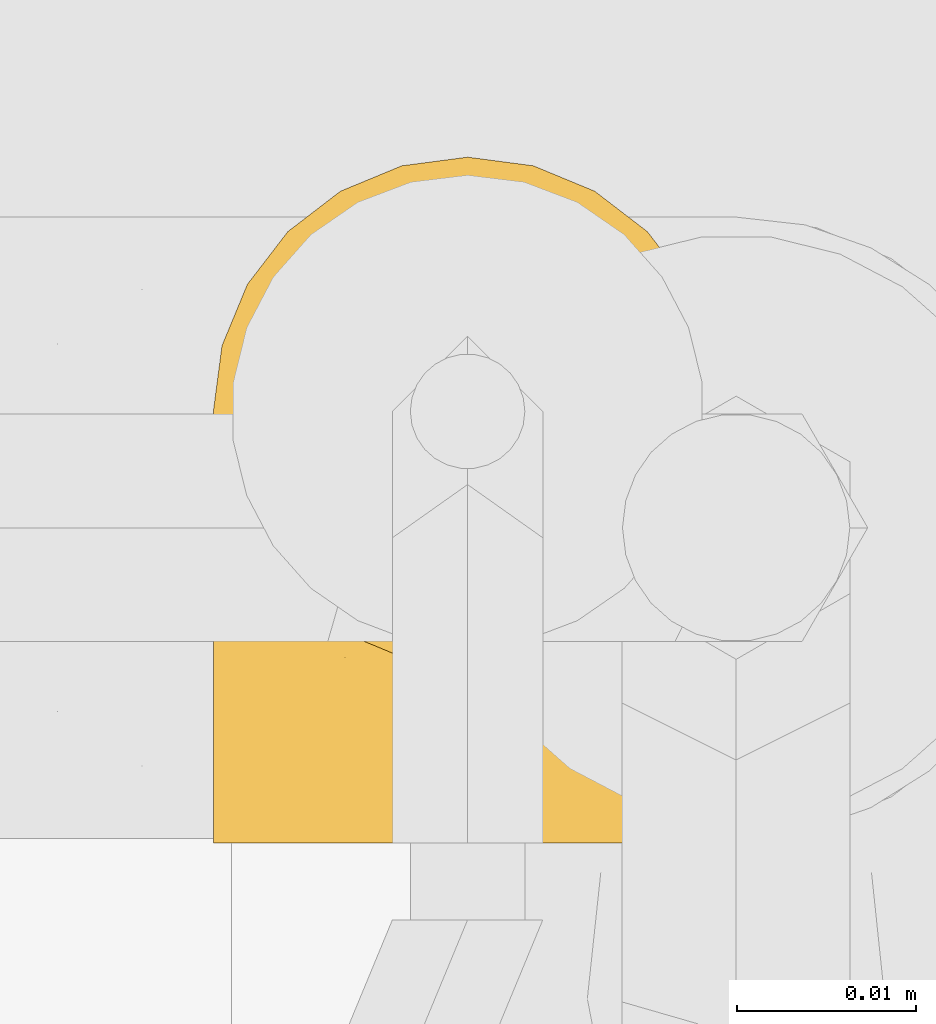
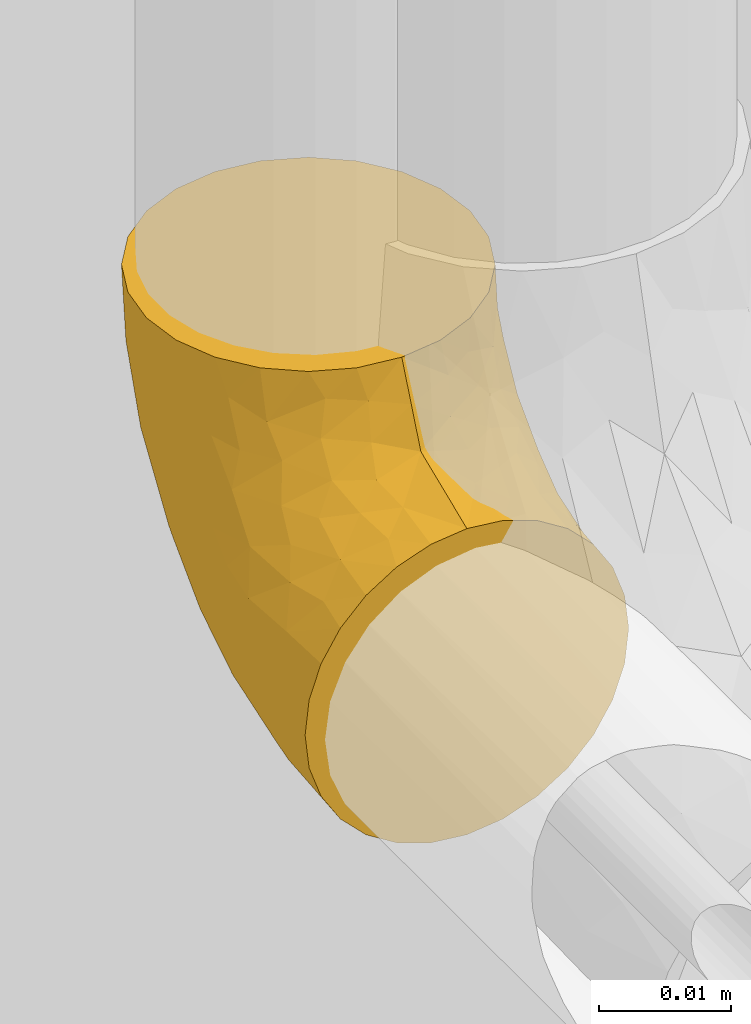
# One storey, part 15 of 32: 1 covering.
"""IFC2X3 building model written with IfcOpenShell, lengths in metres."""

from ifc_helpers import new_model, entity, si_unit, converted_unit, derived_unit, direction, frame, origin, place, context, subcontext, project, spatial, faceted_brep, material, type_object, element, save


model = new_model("IFC2X3")

# Units and contexts
model_context = context("Model", 3, precision=1e-05, world=origin(), true_north=direction((6.123031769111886e-17, 1.0)))
body_context = subcontext(model_context, "Body", "Model", "MODEL_VIEW")
ifc_project = project(units=[si_unit("LENGTHUNIT", "METRE"), si_unit("AREAUNIT", "SQUARE_METRE"), si_unit("VOLUMEUNIT", "CUBIC_METRE"), converted_unit("PLANEANGLEUNIT", "DEGREE", entity("IfcPlaneAngleMeasure", 0.017453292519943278), si_unit("PLANEANGLEUNIT", "RADIAN"), dimensions=[0, 0, 0, 0, 0, 0, 0]), si_unit("MASSUNIT", "GRAM", prefix="KILO"), derived_unit("MASSDENSITYUNIT", [(si_unit("MASSUNIT", "GRAM", prefix="KILO"), 1), (si_unit("LENGTHUNIT", "METRE"), -3)]), derived_unit("IONCONCENTRATIONUNIT", [(si_unit("MASSUNIT", "GRAM", prefix="KILO"), 1), (si_unit("LENGTHUNIT", "METRE"), -3)]), derived_unit("MOMENTOFINERTIAUNIT", [(si_unit("LENGTHUNIT", "METRE"), 4)]), si_unit("TIMEUNIT", "SECOND"), si_unit("FREQUENCYUNIT", "HERTZ"), si_unit("THERMODYNAMICTEMPERATUREUNIT", "DEGREE_CELSIUS"), derived_unit("THERMALTRANSMITTANCEUNIT", [(si_unit("MASSUNIT", "GRAM", prefix="KILO"), 1), (si_unit("THERMODYNAMICTEMPERATUREUNIT", "KELVIN"), -1), (si_unit("TIMEUNIT", "SECOND"), -3)]), derived_unit("THERMALCONDUCTANCEUNIT", [(si_unit("MASSUNIT", "GRAM", prefix="KILO"), 1), (si_unit("THERMODYNAMICTEMPERATUREUNIT", "KELVIN"), -1), (si_unit("TIMEUNIT", "SECOND"), -3), (si_unit("LENGTHUNIT", "METRE"), 1)]), derived_unit("VOLUMETRICFLOWRATEUNIT", [(si_unit("LENGTHUNIT", "METRE", prefix="DECI"), 3), (si_unit("TIMEUNIT", "SECOND"), -1)]), derived_unit("MASSFLOWRATEUNIT", [(si_unit("MASSUNIT", "GRAM", prefix="KILO"), 1), (si_unit("TIMEUNIT", "SECOND"), -1)]), derived_unit("ROTATIONALFREQUENCYUNIT", [(si_unit("TIMEUNIT", "SECOND"), -1)]), si_unit("ELECTRICCURRENTUNIT", "AMPERE"), si_unit("ELECTRICVOLTAGEUNIT", "VOLT"), si_unit("POWERUNIT", "WATT"), si_unit("FORCEUNIT", "NEWTON", prefix="KILO"), si_unit("ILLUMINANCEUNIT", "LUX"), si_unit("LUMINOUSFLUXUNIT", "LUMEN"), si_unit("LUMINOUSINTENSITYUNIT", "CANDELA"), si_unit("ENERGYUNIT", "JOULE"), derived_unit("USERDEFINED", [(si_unit("MASSUNIT", "GRAM", prefix="KILO"), -1), (si_unit("LENGTHUNIT", "METRE"), -2), (si_unit("TIMEUNIT", "SECOND"), 3), (si_unit("LUMINOUSFLUXUNIT", "LUMEN"), 1)]), derived_unit("USERDEFINED", [(si_unit("MASSUNIT", "GRAM", prefix="KILO"), 1), (si_unit("TIMEUNIT", "SECOND"), -3), (si_unit("LENGTHUNIT", "METRE"), 3), (si_unit("ELECTRICCURRENTUNIT", "AMPERE"), -2)]), derived_unit("SOUNDPOWERUNIT", [(si_unit("MASSUNIT", "GRAM", prefix="KILO"), 1), (si_unit("TIMEUNIT", "SECOND"), -3), (si_unit("LENGTHUNIT", "METRE"), 2)]), derived_unit("SOUNDPRESSUREUNIT", [(si_unit("MASSUNIT", "GRAM", prefix="KILO"), 1), (si_unit("LENGTHUNIT", "METRE"), -1), (si_unit("TIMEUNIT", "SECOND"), -2)]), derived_unit("LINEARVELOCITYUNIT", [(si_unit("LENGTHUNIT", "METRE"), 1), (si_unit("TIMEUNIT", "SECOND"), -1)]), si_unit("PRESSUREUNIT", "PASCAL"), derived_unit("USERDEFINED", [(si_unit("MASSUNIT", "GRAM", prefix="KILO"), 1), (si_unit("LENGTHUNIT", "METRE"), -2), (si_unit("TIMEUNIT", "SECOND"), -2)]), derived_unit("LINEARFORCEUNIT", [(si_unit("MASSUNIT", "GRAM", prefix="KILO"), 1), (si_unit("TIMEUNIT", "SECOND"), -2)]), derived_unit("PLANARFORCEUNIT", [(si_unit("MASSUNIT", "GRAM", prefix="KILO"), 1), (si_unit("LENGTHUNIT", "METRE"), -1), (si_unit("TIMEUNIT", "SECOND"), -2)]), derived_unit("SPECIFICHEATCAPACITYUNIT", [(si_unit("THERMODYNAMICTEMPERATUREUNIT", "KELVIN"), -1), (si_unit("LENGTHUNIT", "METRE"), 2), (si_unit("TIMEUNIT", "SECOND"), -2)]), derived_unit("HEATFLUXDENSITYUNIT", [(si_unit("MASSUNIT", "GRAM", prefix="KILO"), 1), (si_unit("TIMEUNIT", "SECOND"), -3)]), derived_unit("HEATINGVALUEUNIT", [(si_unit("LENGTHUNIT", "METRE"), 2), (si_unit("TIMEUNIT", "SECOND"), -2)]), derived_unit("VAPORPERMEABILITYUNIT", [(si_unit("LENGTHUNIT", "METRE"), -1), (si_unit("TIMEUNIT", "SECOND"), 1)]), derived_unit("DYNAMICVISCOSITYUNIT", [(si_unit("MASSUNIT", "GRAM", prefix="KILO"), 1), (si_unit("TIMEUNIT", "SECOND"), -1), (si_unit("LENGTHUNIT", "METRE"), -1)]), derived_unit("THERMALEXPANSIONCOEFFICIENTUNIT", [(si_unit("THERMODYNAMICTEMPERATUREUNIT", "KELVIN"), -1)]), derived_unit("MODULUSOFELASTICITYUNIT", [(si_unit("MASSUNIT", "GRAM", prefix="KILO"), 1), (si_unit("LENGTHUNIT", "METRE"), -1), (si_unit("TIMEUNIT", "SECOND"), -2)]), derived_unit("ISOTHERMALMOISTURECAPACITYUNIT", [(si_unit("MASSUNIT", "GRAM", prefix="KILO"), -1), (si_unit("LENGTHUNIT", "METRE"), 3)]), derived_unit("MOISTUREDIFFUSIVITYUNIT", [(si_unit("TIMEUNIT", "SECOND"), -1), (si_unit("LENGTHUNIT", "METRE"), 2)]), derived_unit("MASSPERLENGTHUNIT", [(si_unit("MASSUNIT", "GRAM", prefix="KILO"), 1), (si_unit("LENGTHUNIT", "METRE"), -1)]), derived_unit("THERMALRESISTANCEUNIT", [(si_unit("MASSUNIT", "GRAM", prefix="KILO"), -1), (si_unit("TIMEUNIT", "SECOND"), 3), (si_unit("THERMODYNAMICTEMPERATUREUNIT", "KELVIN"), 1)]), derived_unit("ACCELERATIONUNIT", [(si_unit("LENGTHUNIT", "METRE"), 1), (si_unit("TIMEUNIT", "SECOND"), -2)]), derived_unit("ANGULARVELOCITYUNIT", [(si_unit("TIMEUNIT", "SECOND"), -1), (si_unit("PLANEANGLEUNIT", "RADIAN"), 1)]), derived_unit("LINEARSTIFFNESSUNIT", [(si_unit("MASSUNIT", "GRAM", prefix="KILO"), 1), (si_unit("TIMEUNIT", "SECOND"), -2)]), derived_unit("WARPINGCONSTANTUNIT", [(si_unit("LENGTHUNIT", "METRE"), 6)]), derived_unit("LINEARMOMENTUNIT", [(si_unit("MASSUNIT", "GRAM", prefix="KILO"), 1), (si_unit("LENGTHUNIT", "METRE"), 1), (si_unit("TIMEUNIT", "SECOND"), -2)]), derived_unit("TORQUEUNIT", [(si_unit("MASSUNIT", "GRAM", prefix="KILO"), 1), (si_unit("LENGTHUNIT", "METRE"), 2), (si_unit("TIMEUNIT", "SECOND"), -2)])], contexts=[model_context])

# Site, building, storey
site_placement = place(None, origin())
site = spatial("IfcSite", under=ifc_project, at=site_placement, Name="Default", CompositionType="ELEMENT")
building_placement = place(site_placement, origin())
building = spatial("IfcBuilding", under=site, at=building_placement, CompositionType="ELEMENT")
storey_placement = place(building_placement, origin())
storey = spatial("IfcBuildingStorey", under=building, at=storey_placement, Name="Niveau 0", CompositionType="ELEMENT", Elevation=-1.949160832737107e-14)

# Covering
ifc_material = material(Name="Matériau du rendu 255-255-255")
covering_type = type_object("IfcCoveringType", Name="Isolation des canalisations:Par défaut", PredefinedType="INSULATION")
covering_placement = place(storey_placement, frame((-13.591096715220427, 2.7663312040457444, -0.4157952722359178)))
element("IfcCovering", 1, at=covering_placement, inside=storey, type_object=covering_type, material=ifc_material, Name="Isolation des canalisations:Par défaut", ObjectType="Isolation des canalisations:Par défaut", PredefinedType="INSULATION", context=body_context, shape_type="Brep", body=[
    faceted_brep([(0.001951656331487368, 0.0015952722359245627, 0.012633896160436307), (0.0030025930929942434, 0.0015952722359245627, 0.009631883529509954), (0.004694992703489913, 0.0015952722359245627, 0.006939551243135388), (0.006943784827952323, 0.0015952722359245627, 0.00469161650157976), (0.009636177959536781, 0.0015952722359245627, 0.0030005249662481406), (0.012637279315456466, 0.0015952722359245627, 0.001950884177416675), (0.015795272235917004, 0.0015952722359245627, 0.0015952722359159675), (0.01895664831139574, 0.0015952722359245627, 0.001951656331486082), (0.021958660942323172, 0.0015952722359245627, 0.0030025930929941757), (0.02465099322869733, 0.0015952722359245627, 0.0046949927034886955), (0.02689892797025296, 0.0015952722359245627, 0.006943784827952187), (0.028590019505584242, 0.0015952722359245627, 0.009636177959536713), (0.029639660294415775, 0.0015952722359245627, 0.012637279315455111), (0.02999527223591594, 0.0015952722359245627, 0.015795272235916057), (0.02963888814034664, 0.0015952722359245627, 0.01895664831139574), (0.028587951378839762, 0.0015952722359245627, 0.02195866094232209), (0.026895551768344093, 0.0015952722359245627, 0.024650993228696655), (0.024646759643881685, 0.0015952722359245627, 0.026898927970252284), (0.021954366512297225, 0.0015952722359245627, 0.028590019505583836), (0.01895326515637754, 0.0015952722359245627, 0.02963966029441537), (0.015795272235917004, 0.0015952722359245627, 0.02999527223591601), (0.012633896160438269, 0.0015952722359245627, 0.029638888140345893), (0.009631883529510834, 0.0015952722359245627, 0.028587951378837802), (0.006939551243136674, 0.0015952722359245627, 0.02689555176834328), (0.004691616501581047, 0.0015952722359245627, 0.02464675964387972), (0.0030005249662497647, 0.0015952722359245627, 0.021954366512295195), (0.0019508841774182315, 0.0015952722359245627, 0.018953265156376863), (0.0015952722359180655, 0.0015952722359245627, 0.015795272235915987), (0.019470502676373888, 0.011979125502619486, 0.03989527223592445), (0.022895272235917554, 0.013397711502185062, 0.03989527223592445), (0.025836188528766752, 0.01565435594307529, 0.03989527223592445), (0.02809283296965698, 0.018595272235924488, 0.03989527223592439), (0.029511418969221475, 0.022020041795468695, 0.03989527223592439), (0.029995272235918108, 0.025695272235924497, 0.03989527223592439), (0.029511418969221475, 0.029370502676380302, 0.03989527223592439), (0.02809283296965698, 0.03279527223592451, 0.03989527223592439), (0.025836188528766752, 0.035736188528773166, 0.03989527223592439), (0.022895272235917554, 0.037992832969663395, 0.03989527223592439), (0.019470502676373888, 0.03941141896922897, 0.03989527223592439), (0.015795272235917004, 0.03989527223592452, 0.03989527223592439), (0.012120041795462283, 0.03941141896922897, 0.03989527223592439), (0.008695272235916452, 0.037992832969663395, 0.03989527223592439), (0.005754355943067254, 0.035736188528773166, 0.03989527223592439), (0.003497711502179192, 0.03279527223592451, 0.03989527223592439), (0.002079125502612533, 0.029370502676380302, 0.03989527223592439), (0.0015952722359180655, 0.025695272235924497, 0.03989527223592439), (0.002079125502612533, 0.022020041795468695, 0.03989527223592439), (0.003497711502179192, 0.018595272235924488, 0.03989527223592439), (0.005754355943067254, 0.01565435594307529, 0.03989527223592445), (0.008695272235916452, 0.013397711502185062, 0.03989527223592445), (0.012120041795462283, 0.011979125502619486, 0.03989527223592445), (0.015795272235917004, 0.011495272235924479, 0.03989527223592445), (0.0018566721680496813, 0.01002356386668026, 0.01444233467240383), (0.01342388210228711, 0.03837015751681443, 0.029932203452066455), (0.015795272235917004, 0.03807857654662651, 0.0331152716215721), (0.015795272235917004, 0.03642131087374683, 0.02693027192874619), (0.0033376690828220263, 0.02960367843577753, 0.026807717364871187), (0.005049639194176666, 0.03380758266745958, 0.031132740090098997), (0.005409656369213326, 0.03076747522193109, 0.022855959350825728), (0.0019283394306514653, 0.016864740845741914, 0.01743704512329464), (0.0015952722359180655, 0.0136452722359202, 0.019024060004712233), (0.011502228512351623, 0.010860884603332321, 0.0034181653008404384), (0.009156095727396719, 0.01756297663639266, 0.006903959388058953), (0.012083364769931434, 0.018031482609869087, 0.005848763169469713), (0.0022458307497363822, 0.022802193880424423, 0.021082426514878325), (0.0015952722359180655, 0.018055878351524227, 0.02343466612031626), (0.00804078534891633, 0.03442139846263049, 0.02512582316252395), (0.010786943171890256, 0.03783267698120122, 0.030693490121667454), (0.011666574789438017, 0.03438477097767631, 0.021317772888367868), (0.0029464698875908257, 0.031158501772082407, 0.03399886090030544), (0.0019132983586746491, 0.027268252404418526, 0.03125340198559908), (0.00878775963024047, 0.029040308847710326, 0.015907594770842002), (0.0015952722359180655, 0.022466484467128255, 0.027845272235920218), (0.0015952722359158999, 0.023181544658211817, 0.030513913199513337), (0.0015952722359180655, 0.023896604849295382, 0.033182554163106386), (0.0015952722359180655, 0.024080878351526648, 0.0338702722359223), (0.0015952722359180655, 0.02479593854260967, 0.03653891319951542), (0.0026820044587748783, 0.01940179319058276, 0.01631519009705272), (0.0035716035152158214, 0.025738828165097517, 0.019934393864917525), (0.003863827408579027, 0.021058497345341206, 0.014748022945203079), (0.004162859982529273, 0.008564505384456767, 0.0084133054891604), (0.006322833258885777, 0.010939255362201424, 0.006498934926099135), (0.008616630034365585, 0.008435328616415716, 0.004192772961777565), (0.015795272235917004, 0.01456027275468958, 0.005069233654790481), (0.002659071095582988, 0.007947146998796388, 0.011094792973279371), (0.0030246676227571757, 0.015081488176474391, 0.012751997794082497), (0.007548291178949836, 0.03658290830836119, 0.03300459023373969), (0.0015952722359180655, 0.004951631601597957, 0.016694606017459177), (0.0015952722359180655, 0.0076202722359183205, 0.01740966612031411), (0.0015952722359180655, 0.008307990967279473, 0.01759393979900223), (0.0015952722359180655, 0.010976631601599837, 0.018308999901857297), (0.00499796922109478, 0.016854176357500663, 0.010271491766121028), (0.007159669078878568, 0.021901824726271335, 0.010932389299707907), (0.015795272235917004, 0.00837527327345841, 0.003411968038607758), (0.005390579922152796, 0.025384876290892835, 0.015936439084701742), (0.015795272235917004, 0.02775465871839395, 0.013735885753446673), (0.015795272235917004, 0.02074527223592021, 0.0067264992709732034), (0.012056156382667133, 0.02452709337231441, 0.009847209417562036), (0.015795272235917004, 0.03476404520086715, 0.02074527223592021), (0.011681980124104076, 0.029976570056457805, 0.015093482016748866), (0.009491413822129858, 0.02334684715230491, 0.010181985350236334), (0.0015952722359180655, 0.02026118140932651, 0.025639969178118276), (0.0015952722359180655, 0.01585057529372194, 0.02122936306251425), (0.002213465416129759, 0.011258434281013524, 0.022435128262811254), (0.0027610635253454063, 0.0064427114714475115, 0.022077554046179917), (0.0040506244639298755, 0.008142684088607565, 0.02516640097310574), (0.0019202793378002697, 0.020889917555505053, 0.03140681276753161), (0.002102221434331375, 0.021588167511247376, 0.03615564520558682), (0.005860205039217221, 0.014794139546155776, 0.03536609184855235), (0.006234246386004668, 0.013099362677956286, 0.03263951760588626), (0.008939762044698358, 0.011933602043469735, 0.0344934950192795), (0.0032572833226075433, 0.015604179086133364, 0.029518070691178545), (0.002001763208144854, 0.01899677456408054, 0.02863542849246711), (0.002080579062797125, 0.016450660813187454, 0.025885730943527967), (0.009727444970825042, 0.012599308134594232, 0.03749996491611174), (0.002533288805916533, 0.019908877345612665, 0.034742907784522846), (0.004009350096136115, 0.01745874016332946, 0.03671230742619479), (0.012324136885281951, 0.010112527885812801, 0.03404877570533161), (0.015795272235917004, 0.008595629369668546, 0.03289491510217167), (0.015795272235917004, 0.01004545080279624, 0.03639509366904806), (0.01175165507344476, 0.008311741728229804, 0.031840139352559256), (0.0019493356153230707, 0.004938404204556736, 0.01921494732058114), (0.012616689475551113, 0.00580074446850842, 0.030536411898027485), (0.009696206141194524, 0.007255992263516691, 0.030142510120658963), (0.010446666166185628, 0.004263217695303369, 0.029279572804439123), (0.0070634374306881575, 0.005709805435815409, 0.027666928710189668), (0.00712496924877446, 0.009080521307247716, 0.029445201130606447), (0.0088288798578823, 0.010052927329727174, 0.031772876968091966), (0.0049306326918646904, 0.004564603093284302, 0.02523626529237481), (0.0018816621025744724, 0.008085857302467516, 0.01964765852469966), (0.01279210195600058, 0.011387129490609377, 0.03696396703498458), (0.015795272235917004, 0.0050954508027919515, 0.03144509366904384), (0.003128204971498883, 0.012638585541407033, 0.026085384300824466), (0.0049815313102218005, 0.009677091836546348, 0.027381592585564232), (0.004122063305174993, 0.015887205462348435, 0.03267010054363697), (0.002976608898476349, 0.018224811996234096, 0.03303024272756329), (0.0020511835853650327, 0.014226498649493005, 0.023710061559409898), (0.005370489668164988, 0.011756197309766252, 0.029609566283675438), (0.022758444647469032, 0.010052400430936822, 0.03177494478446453), (0.019266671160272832, 0.010112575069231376, 0.034048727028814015), (0.019833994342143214, 0.00831020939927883, 0.0318407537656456), (0.02999527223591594, 0.0049516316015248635, 0.016694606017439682), (0.019964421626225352, 0.011619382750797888, 0.036684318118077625), (0.02999527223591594, 0.023181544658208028, 0.030513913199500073), (0.0296702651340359, 0.020889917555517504, 0.031406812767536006), (0.02999527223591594, 0.022466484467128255, 0.027845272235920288), (0.022374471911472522, 0.012813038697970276, 0.0372909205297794), (0.029488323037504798, 0.021588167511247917, 0.036155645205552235), (0.02999527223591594, 0.02479593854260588, 0.03653891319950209), (0.026214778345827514, 0.011752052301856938, 0.02961348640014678), (0.028458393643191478, 0.012633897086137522, 0.026091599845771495), (0.028329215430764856, 0.015599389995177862, 0.02952438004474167), (0.028613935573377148, 0.018224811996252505, 0.03303024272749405), (0.029057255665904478, 0.019908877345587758, 0.03474290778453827), (0.02758119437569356, 0.017458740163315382, 0.03671230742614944), (0.025730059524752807, 0.014794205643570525, 0.03536712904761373), (0.025355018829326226, 0.013099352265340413, 0.032641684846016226), (0.022649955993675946, 0.011934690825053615, 0.03449656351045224), (0.02113952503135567, 0.004262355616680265, 0.029281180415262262), (0.018971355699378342, 0.00579937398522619, 0.03053642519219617), (0.028827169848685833, 0.006441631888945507, 0.02208279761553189), (0.029640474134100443, 0.004940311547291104, 0.019218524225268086), (0.02452219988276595, 0.005707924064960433, 0.02767033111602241), (0.02999527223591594, 0.0076202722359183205, 0.01740966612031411), (0.02999527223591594, 0.008307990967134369, 0.01759393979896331), (0.029376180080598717, 0.011262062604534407, 0.02244050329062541), (0.027535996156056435, 0.008140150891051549, 0.025171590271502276), (0.026655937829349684, 0.00456334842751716, 0.02524082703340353), (0.021889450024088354, 0.007253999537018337, 0.03014404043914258), (0.02446036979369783, 0.009077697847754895, 0.029448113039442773), (0.027467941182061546, 0.015888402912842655, 0.032674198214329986), (0.029588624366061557, 0.018992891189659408, 0.028630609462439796), (0.029995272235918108, 0.010976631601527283, 0.018308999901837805), (0.02999527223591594, 0.0136452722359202, 0.019024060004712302), (0.02968842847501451, 0.009624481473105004, 0.020313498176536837), (0.02660438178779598, 0.009673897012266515, 0.02738600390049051), (0.02953414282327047, 0.014210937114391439, 0.023723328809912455), (0.02999527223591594, 0.018055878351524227, 0.02343466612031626), (0.02950765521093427, 0.01643599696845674, 0.025882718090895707), (0.02999527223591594, 0.01585057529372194, 0.02122936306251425), (0.02999527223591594, 0.02026118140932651, 0.025639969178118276), (0.029995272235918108, 0.0238966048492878, 0.03318255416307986), (0.029995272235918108, 0.024080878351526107, 0.0338702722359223), (0.02654097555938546, 0.03380780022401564, 0.031133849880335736), (0.028253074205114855, 0.029604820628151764, 0.026811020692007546), (0.026181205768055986, 0.030767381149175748, 0.0228564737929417), (0.027430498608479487, 0.008564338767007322, 0.008417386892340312), (0.029677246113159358, 0.027268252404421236, 0.031253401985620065), (0.0228025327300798, 0.029032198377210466, 0.01589810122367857), (0.01953627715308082, 0.02452672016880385, 0.009847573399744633), (0.018853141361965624, 0.03028171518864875, 0.015024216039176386), (0.024434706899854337, 0.021899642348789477, 0.010934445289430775), (0.02659571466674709, 0.01685214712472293, 0.01027458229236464), (0.025271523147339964, 0.010939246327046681, 0.00650247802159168), (0.028644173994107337, 0.031158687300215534, 0.03400087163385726), (0.02080353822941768, 0.037832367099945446, 0.030692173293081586), (0.023549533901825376, 0.034420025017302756, 0.025122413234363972), (0.019923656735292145, 0.03438465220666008, 0.02131737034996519), (0.028567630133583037, 0.015079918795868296, 0.012755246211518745), (0.028146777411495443, 0.022101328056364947, 0.016505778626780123), (0.029662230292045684, 0.01686392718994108, 0.0174366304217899), (0.020092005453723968, 0.010861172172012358, 0.0034194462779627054), (0.029734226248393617, 0.010022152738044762, 0.014443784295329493), (0.02404213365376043, 0.03658260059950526, 0.03300258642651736), (0.022978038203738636, 0.008436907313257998, 0.0041955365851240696), (0.02243855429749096, 0.017562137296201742, 0.006905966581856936), (0.02934445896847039, 0.022801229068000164, 0.021080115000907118), (0.028396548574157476, 0.02609654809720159, 0.0214872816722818), (0.01816661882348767, 0.03837016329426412, 0.029932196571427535), (0.02620311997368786, 0.025382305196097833, 0.01593867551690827), (0.028933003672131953, 0.007946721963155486, 0.011098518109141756), (0.018862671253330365, 0.01802090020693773, 0.005667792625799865), (0.0221022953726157, 0.0233488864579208, 0.010185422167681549)], [[[0, 1, 2, 3, 4, 5, 6, 7, 8, 9, 10, 11, 12, 13, 14, 15, 16, 17, 18, 19, 20, 21, 22, 23, 24, 25, 26, 27]], [[28, 29, 30, 31, 32, 33, 34, 35, 36, 37, 38, 39, 40, 41, 42, 43, 44, 45, 46, 47, 48, 49, 50, 51]], [[27, 52, 0]], [[53, 54, 55]], [[56, 57, 58]], [[59, 52, 60]], [[61, 62, 63]], [[64, 59, 65]], [[66, 67, 68]], [[57, 56, 69]], [[70, 45, 44]], [[43, 42, 57]], [[66, 68, 71]], [[70, 72, 73, 74, 75, 76, 45]], [[44, 43, 69]], [[77, 78, 79]], [[80, 81, 2]], [[41, 40, 67]], [[82, 62, 61]], [[2, 81, 3]], [[63, 83, 61]], [[61, 5, 4]], [[84, 52, 85]], [[40, 39, 54]], [[58, 78, 56]], [[66, 86, 67]], [[86, 42, 41]], [[52, 27, 87, 88, 89, 90, 60]], [[91, 92, 81]], [[70, 64, 72]], [[80, 2, 1]], [[93, 5, 61]], [[1, 0, 84]], [[93, 6, 5]], [[81, 80, 91]], [[4, 82, 61]], [[54, 53, 40]], [[82, 4, 3]], [[68, 67, 53]], [[86, 57, 42]], [[58, 94, 78]], [[69, 70, 44]], [[64, 70, 56]], [[78, 64, 56]], [[85, 52, 59]], [[3, 81, 82]], [[62, 82, 81]], [[84, 80, 1]], [[91, 80, 85]], [[79, 91, 85]], [[91, 94, 92]], [[95, 96, 97]], [[94, 58, 71]], [[98, 95, 99]], [[99, 95, 97]], [[92, 62, 81]], [[92, 100, 62]], [[68, 99, 71]], [[52, 84, 0]], [[80, 84, 85]], [[67, 86, 41]], [[57, 86, 66]], [[57, 66, 58]], [[71, 58, 66]], [[64, 65, 101, 72]], [[77, 79, 85]], [[59, 60, 102, 65]], [[94, 71, 92]], [[71, 99, 100]], [[68, 53, 55]], [[98, 68, 55]], [[40, 53, 67]], [[71, 100, 92]], [[63, 100, 97]], [[57, 69, 43]], [[70, 69, 56]], [[100, 63, 62]], [[83, 93, 61]], [[79, 78, 94]], [[91, 79, 94]], [[85, 59, 77]], [[59, 64, 77]], [[78, 77, 64]], [[99, 68, 98]], [[100, 99, 97]], [[97, 96, 63]], [[83, 63, 96]], [[103, 104, 105]], [[72, 106, 73]], [[47, 46, 107]], [[107, 46, 76]], [[108, 109, 110]], [[111, 112, 113]], [[108, 110, 114]], [[47, 115, 116]], [[117, 118, 119]], [[108, 49, 48]], [[118, 117, 120]], [[25, 121, 26]], [[49, 114, 50]], [[122, 123, 124]], [[124, 125, 22]], [[126, 123, 127]], [[128, 104, 24]], [[129, 103, 60]], [[24, 104, 25]], [[27, 26, 87]], [[123, 120, 127]], [[130, 117, 119]], [[107, 76, 75, 74, 73]], [[131, 118, 122, 20]], [[105, 132, 103]], [[21, 124, 22]], [[23, 22, 125]], [[121, 87, 26]], [[126, 133, 125]], [[130, 110, 117]], [[123, 122, 120]], [[128, 24, 23]], [[50, 130, 51]], [[128, 125, 105]], [[129, 121, 104]], [[116, 108, 48]], [[134, 135, 111]], [[135, 112, 111]], [[127, 120, 117]], [[21, 20, 122]], [[125, 124, 123]], [[21, 122, 124]], [[105, 133, 132]], [[136, 103, 132]], [[111, 132, 137]], [[113, 136, 132]], [[111, 137, 109]], [[112, 106, 72]], [[118, 120, 122]], [[127, 117, 110]], [[109, 127, 110]], [[126, 127, 137]], [[133, 126, 137]], [[125, 123, 126]], [[132, 133, 137]], [[125, 133, 105]], [[125, 128, 23]], [[104, 128, 105]], [[113, 101, 65]], [[101, 113, 112]], [[102, 136, 65]], [[132, 111, 113]], [[103, 102, 60]], [[104, 121, 25]], [[121, 89, 88, 87]], [[129, 60, 90, 89]], [[121, 129, 89]], [[115, 107, 106]], [[106, 112, 135]], [[73, 106, 107]], [[106, 135, 115]], [[116, 115, 135]], [[47, 107, 115]], [[116, 135, 134]], [[47, 116, 48]], [[51, 130, 119]], [[130, 50, 114]], [[112, 72, 101]], [[108, 114, 49]], [[130, 114, 110]], [[65, 136, 113]], [[102, 103, 136]], [[46, 45, 76]], [[109, 108, 134]], [[127, 109, 137]], [[109, 134, 111]], [[116, 134, 108]], [[103, 129, 104]], [[138, 139, 140]], [[14, 13, 141]], [[119, 142, 51]], [[139, 142, 119]], [[143, 144, 145]], [[142, 146, 28]], [[147, 148, 32]], [[149, 150, 151]], [[152, 153, 154]], [[118, 139, 119]], [[155, 29, 146]], [[138, 156, 157]], [[158, 159, 19]], [[157, 139, 138]], [[18, 158, 19]], [[160, 15, 161]], [[17, 162, 18]], [[161, 141, 163, 164]], [[160, 165, 166]], [[147, 32, 31]], [[17, 16, 167]], [[168, 158, 162]], [[160, 166, 167]], [[149, 138, 169]], [[170, 156, 151]], [[151, 171, 152]], [[172, 173, 174, 164]], [[14, 161, 15]], [[155, 30, 29]], [[160, 16, 15]], [[19, 159, 20]], [[118, 131, 20, 159]], [[169, 175, 149]], [[167, 162, 17]], [[174, 165, 160]], [[156, 155, 157]], [[155, 170, 154]], [[150, 166, 165]], [[118, 159, 140]], [[142, 139, 157]], [[162, 158, 18]], [[159, 158, 168]], [[159, 168, 140]], [[176, 177, 178]], [[150, 149, 175]], [[176, 178, 150]], [[171, 145, 144]], [[165, 179, 176]], [[170, 151, 152]], [[140, 168, 138]], [[118, 140, 139]], [[169, 138, 168]], [[156, 138, 149]], [[168, 162, 169]], [[175, 162, 166]], [[162, 175, 169]], [[150, 175, 166]], [[160, 167, 16]], [[162, 167, 166]], [[178, 171, 151]], [[178, 180, 171]], [[151, 150, 178]], [[165, 173, 179]], [[176, 150, 165]], [[141, 161, 14]], [[174, 173, 165]], [[174, 161, 164]], [[152, 144, 153]], [[147, 143, 181, 182, 148]], [[147, 153, 144]], [[147, 144, 143]], [[171, 144, 152]], [[147, 31, 153]], [[154, 31, 30]], [[31, 154, 153]], [[155, 154, 30]], [[146, 142, 157]], [[142, 28, 51]], [[155, 146, 157]], [[28, 146, 29]], [[180, 178, 177]], [[180, 145, 171]], [[177, 176, 179]], [[148, 33, 32]], [[151, 156, 149]], [[154, 170, 152]], [[156, 170, 155]], [[161, 174, 160]], [[183, 184, 185]], [[10, 186, 11]], [[187, 33, 148, 182, 181, 143, 145]], [[188, 189, 190]], [[191, 192, 193]], [[34, 194, 35]], [[195, 38, 37]], [[195, 196, 197]], [[194, 183, 35]], [[54, 39, 38]], [[183, 36, 35]], [[98, 55, 197]], [[198, 199, 200]], [[8, 7, 201]], [[200, 173, 202]], [[203, 195, 37]], [[13, 12, 202]], [[36, 203, 37]], [[9, 193, 10]], [[204, 205, 193]], [[187, 206, 207]], [[193, 186, 10]], [[7, 6, 93]], [[55, 208, 197]], [[186, 192, 198]], [[201, 204, 8]], [[192, 199, 198]], [[192, 191, 209]], [[202, 173, 172, 164, 163, 141, 13]], [[7, 93, 201]], [[210, 202, 12]], [[204, 9, 8]], [[33, 187, 34]], [[11, 210, 12]], [[83, 96, 211]], [[207, 206, 199]], [[38, 195, 208]], [[207, 185, 184]], [[203, 183, 196]], [[206, 187, 145]], [[194, 187, 184]], [[206, 177, 200]], [[206, 200, 199]], [[205, 204, 201]], [[193, 9, 204]], [[192, 186, 193]], [[210, 186, 198]], [[191, 193, 205]], [[199, 192, 209]], [[196, 185, 188]], [[190, 98, 197]], [[197, 196, 188]], [[95, 189, 96]], [[211, 205, 201]], [[190, 189, 95]], [[212, 188, 191]], [[186, 210, 11]], [[202, 210, 198]], [[183, 203, 36]], [[195, 203, 196]], [[188, 185, 209]], [[196, 183, 185]], [[198, 200, 202]], [[212, 191, 205]], [[206, 145, 180, 177]], [[200, 177, 179, 173]], [[188, 209, 191]], [[38, 208, 54]], [[54, 208, 55]], [[197, 208, 195]], [[205, 189, 212]], [[188, 212, 189]], [[187, 194, 34]], [[183, 194, 184]], [[189, 211, 96]], [[201, 93, 83]], [[209, 185, 207]], [[207, 199, 209]], [[187, 207, 184]], [[98, 190, 95]], [[188, 190, 197]], [[205, 211, 189]], [[83, 211, 201]]]),
])

save(model, "model.ifc")
